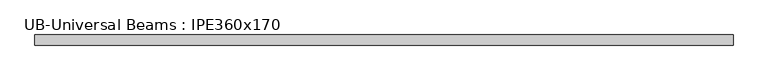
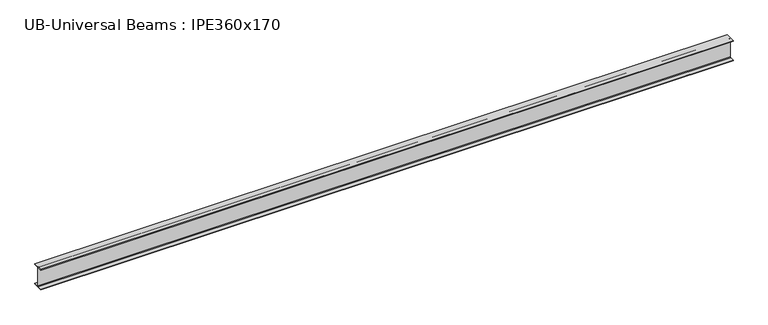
"""IFC4 building model written with IfcOpenShell, lengths in millimetres: beam geometry, UB-Universal Beams : IPE360x170."""

from ifc_helpers import new_model, si_unit, point, frame, frame_2d, origin, place, context, project, spatial, polyline, circle_curve, trimmed, segment, composite_curve, outline, extrude, source, transform, mapped, element, save


def ub_universal_beams_ipe360x170_77c0ac8e(model_context):
    return source(origin(), model_context, "Body", "SweptSolid", [
        extrude(outline(composite_curve([segment(polyline([(85.0, -169.8), (85.0, -180.0), (-85.0, -180.0), (-85.0, -169.8), (-11.9, -169.8)]), True, "CONTINUOUS"), segment(trimmed(circle_curve(frame_2d((-11.9, -160.9)), 8.9), [point((-11.9, -169.8))], [point((-3.0, -160.9))], True, "CARTESIAN"), True, "CONTINUOUS"), segment(polyline([(-3.0, -160.9), (-3.0, 160.9)]), True, "CONTINUOUS"), segment(trimmed(circle_curve(frame_2d((-11.9, 160.9)), 8.9), [point((-3.0, 160.9))], [point((-11.9, 169.8))], True, "CARTESIAN"), True, "CONTINUOUS"), segment(polyline([(-11.9, 169.8), (-85.0, 169.8), (-85.0, 180.0), (85.0, 180.0), (85.0, 169.8), (11.9, 169.8)]), True, "CONTINUOUS"), segment(trimmed(circle_curve(frame_2d((11.9, 160.9)), 8.9), [point((11.9, 169.8))], [point((3.0, 160.9))], True, "CARTESIAN"), True, "CONTINUOUS"), segment(polyline([(3.0, 160.9), (3.0, -160.9)]), True, "CONTINUOUS"), segment(trimmed(circle_curve(frame_2d((11.9, -160.9)), 8.9), [point((3.0, -160.9))], [point((11.9, -169.8))], True, "CARTESIAN"), True, "CONTINUOUS"), segment(polyline([(11.9, -169.8), (85.0, -169.8)]), True, "CONTINUOUS")], self_intersect=False)), frame((-5697.0, 0.0, 0.0), z_axis=(1.0, 0.0, 0.0), x_axis=(0.0, 1.0, 0.0)), (0.0, 0.0, 1.0), 11701.6331121),
    ])


if __name__ == "__main__":
    model = new_model("IFC4")
    model_context = context("Model", 3, world=origin())
    ifc_project = project(units=[si_unit("LENGTHUNIT", "METRE", prefix="MILLI")], contexts=[model_context])
    site = spatial("IfcSite", under=ifc_project)
    building = spatial("IfcBuilding", under=site)
    placement = place(None, origin())
    ub_universal_beams_ipe360x170_shape = ub_universal_beams_ipe360x170_77c0ac8e(model_context)
    element("IfcBeam", 1, ObjectType="UB-Universal Beams : IPE360x170", at=placement, inside=building, context=model_context, shape_type="MappedRepresentation", body=[
        mapped(ub_universal_beams_ipe360x170_shape, transform((0.0, 0.0, 0.0), x_axis=(1.0, 0.0, 0.0), y_axis=(0.0, 1.0, 0.0), z_axis=(0.0, 0.0, 1.0))),
    ])
    save(model, "model.ifc")
